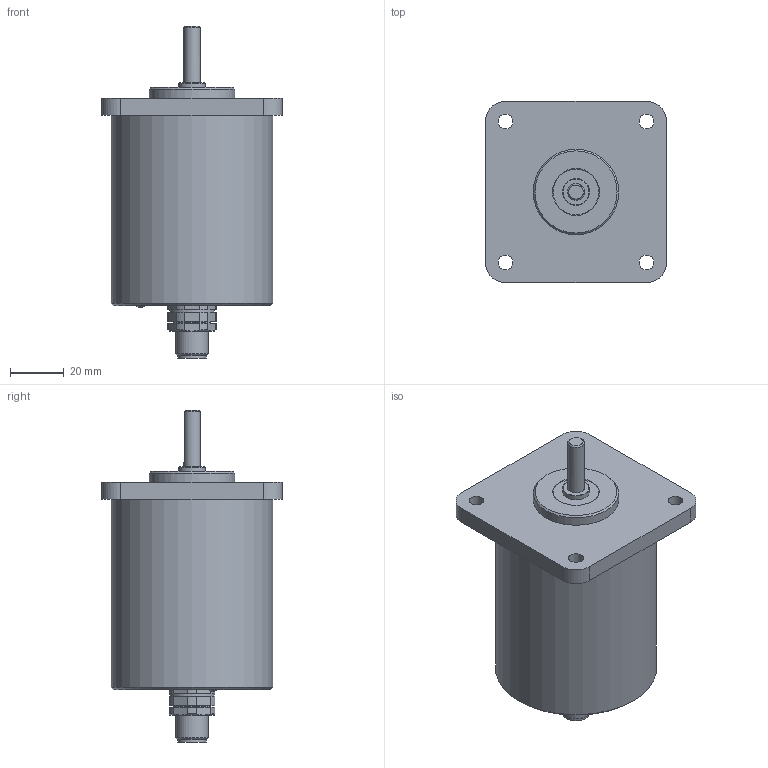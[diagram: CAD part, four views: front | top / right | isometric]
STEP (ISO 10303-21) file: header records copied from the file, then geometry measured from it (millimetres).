
FILE_DESCRIPTION(/* description */ ('Alibre Inc.'),/* implementation_level */ '2;1');
FILE_NAME(/* name */ 'export0',/* time_stamp */ '2016-10-21T14:12:30-04:00',/* author */ (''),/* organization */ (''),/* preprocessor_version */ 'ST-DEVELOPER v14',/* originating_system */ 'Alibre',/* authorisation */ '');
FILE_SCHEMA (('CONFIG_CONTROL_DESIGN'));
Length unit declared in the file: centimetre
Products named in the file (1): ID_1
Bounding box: 67.31 x 67.31 x 123.47 mm (x, y, z)
Volume: 143853.4 mm3; surface area: 44301.4 mm2
Topology: 3 solids, 44 shells, 284 faces, 481 edges, 316 vertices
Faces by surface type: plane 150, cylinder 105, cone 25, bspline 3, torus 1
Full cylindrical faces by diameter (mm): 1.4 x8, 2.87 x2, 3 x37, 5.5 x4, 6.34 x1, 8.3 x1, 9.9 x2, 10 x3, 10.5 x1, 11.8 x1, 12 x1, 13.5 x2, 14 x1, 15.2 x1, 16.5 x1, 17 x1, 20 x1, 26 x1, 31.75 x1, 40 x1, 46 x1, 55.8 x1, 60 x1
Entity records: 6049 total; most frequent: CARTESIAN_POINT 1118, DIRECTION 977, ORIENTED_EDGE 750, AXIS2_PLACEMENT_3D 490, EDGE_LOOP 426, FACE_BOUND 426, EDGE_CURVE 375, VERTEX_POINT 305
